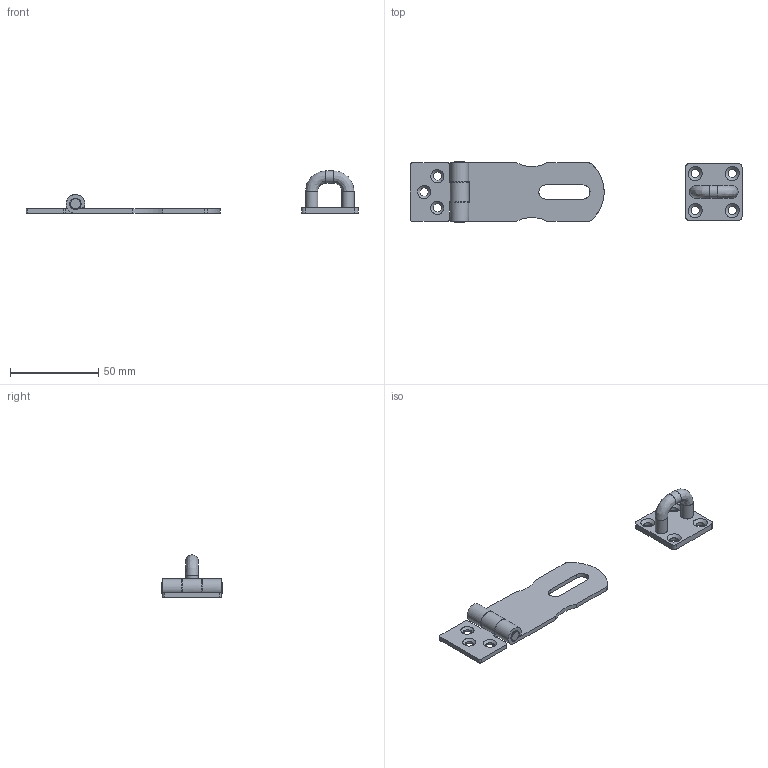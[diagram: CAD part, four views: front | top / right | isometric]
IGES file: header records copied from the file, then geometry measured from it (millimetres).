
Global section: file name: DR_GS1-6; native system: Autodesk Inventor 2015; preprocessor: unknown; author: CH.J; date: 20170831.094757; units: millimetre
Bounding box: 188.12 x 34 x 24 mm (x, y, z)
Volume: 15005.4 mm3; surface area: 12990.9 mm2
Topology: 4 solids, 4 shells, 78 faces, 217 edges, 149 vertices
Faces by surface type: bspline 78
